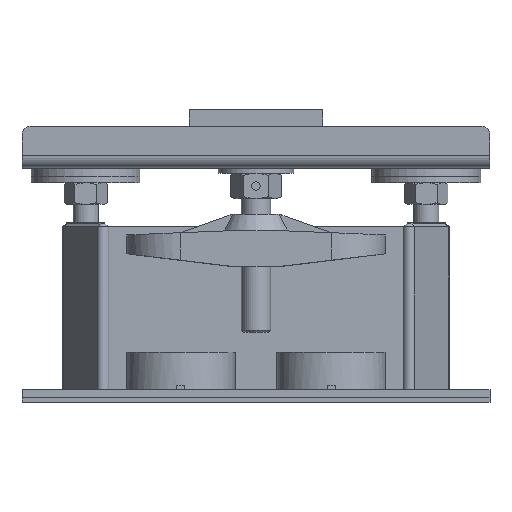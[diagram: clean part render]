
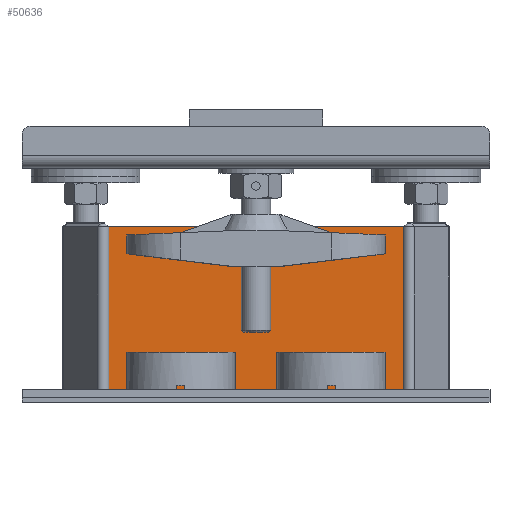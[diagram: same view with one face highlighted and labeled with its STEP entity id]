
A CAD part, top view. The second image highlights one B-rep face of the part: STEP entity #50636.
In plain terms, the highlighted planar face has unit normal (0, 0, 1).
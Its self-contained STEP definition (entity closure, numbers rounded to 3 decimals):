
#6509=LINE($,#79828,#12917);
#6510=LINE($,#79831,#12918);
#6511=LINE($,#79833,#12919);
#6512=LINE($,#79834,#12920);
#12917=VECTOR($,#65501,4.875);
#12918=VECTOR($,#65504,8.938);
#12919=VECTOR($,#65505,4.875);
#12920=VECTOR($,#65506,8.938);
#15788=PLANE($,#53615);
#19208=FACE_OUTER_BOUND($,#22580,.T.);
#22580=EDGE_LOOP($,(#46709,#46710,#46711,#46712));
#27342=VERTEX_POINT($,#79816);
#27344=VERTEX_POINT($,#79822);
#27345=VERTEX_POINT($,#79830);
#27346=VERTEX_POINT($,#79832);
#33877=EDGE_CURVE($,#27342,#27344,#6509,.T.);
#33878=EDGE_CURVE($,#27345,#27344,#6510,.T.);
#33879=EDGE_CURVE($,#27345,#27346,#6511,.T.);
#33880=EDGE_CURVE($,#27342,#27346,#6512,.T.);
#46709=ORIENTED_EDGE($,*,*,#33877,.T.);
#46710=ORIENTED_EDGE($,*,*,#33878,.F.);
#46711=ORIENTED_EDGE($,*,*,#33879,.T.);
#46712=ORIENTED_EDGE($,*,*,#33880,.F.);
#50636=ADVANCED_FACE($,(#19208),#15788,.T.);
#53615=AXIS2_PLACEMENT_3D($,#79829,#65502,#65503);
#65501=DIRECTION($,(0.,1.,0.));
#65502=DIRECTION('center_axis',(0.,0.,1.));
#65503=DIRECTION('ref_axis',(1.,0.,0.));
#65504=DIRECTION($,(1.,0.,0.));
#65505=DIRECTION($,(0.,-1.,0.));
#65506=DIRECTION($,(-1.,0.,0.));
#79816=CARTESIAN_POINT('',(4.469,-2.438,0.125));
#79822=CARTESIAN_POINT('',(4.469,2.438,0.125));
#79828=CARTESIAN_POINT($,(4.469,1.219,0.125));
#79829=CARTESIAN_POINT('Origin',(0.,0.,0.125));
#79830=CARTESIAN_POINT('',(-4.469,2.438,0.125));
#79831=CARTESIAN_POINT($,(7.144,2.438,0.125));
#79832=CARTESIAN_POINT('',(-4.469,-2.438,0.125));
#79833=CARTESIAN_POINT($,(-4.469,-1.219,0.125));
#79834=CARTESIAN_POINT($,(-7.144,-2.438,0.125));
